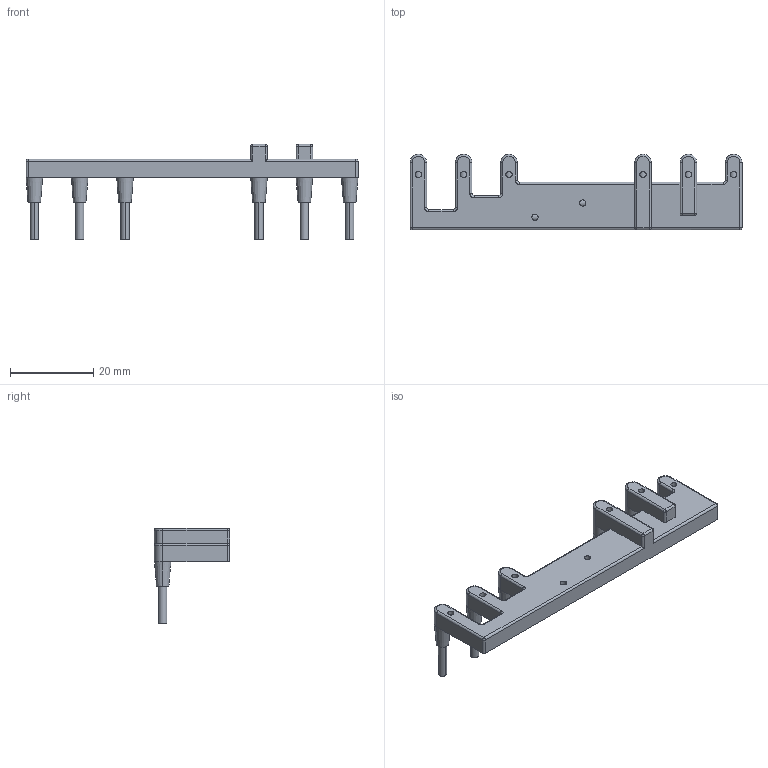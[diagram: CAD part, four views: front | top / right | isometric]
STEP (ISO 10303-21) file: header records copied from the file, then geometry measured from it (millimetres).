
FILE_DESCRIPTION((''),'2;1');
FILE_NAME('REVERSING_WIRING_MODULE_KIT_R1','2023-11-27T17:05:12',('design1'),(''),'CREO PARAMETRIC BY PTC INC, 2022284','CREO PARAMETRIC BY PTC INC, 2022284','');
FILE_SCHEMA(('CONFIG_CONTROL_DESIGN'));
Length unit declared in the file: inch
Products named in the file (1): REVERSING_WIRING_MODULE_KIT_R1
Bounding box: 79.8 x 18.1 x 22.9 mm (x, y, z)
Volume: 4982.8 mm3; surface area: 4356.3 mm2
Topology: 1 solids, 1 shells, 180 faces, 465 edges, 304 vertices
Faces by surface type: cylinder 107, plane 43, torus 12, cone 12, sphere 6
Entity records: 6212 total; most frequent: CARTESIAN_POINT 1665, DIRECTION 999, ORIENTED_EDGE 918, EDGE_CURVE 459, AXIS2_PLACEMENT_3D 405, VERTEX_POINT 304, CIRCLE 225, EDGE_LOOP 203
